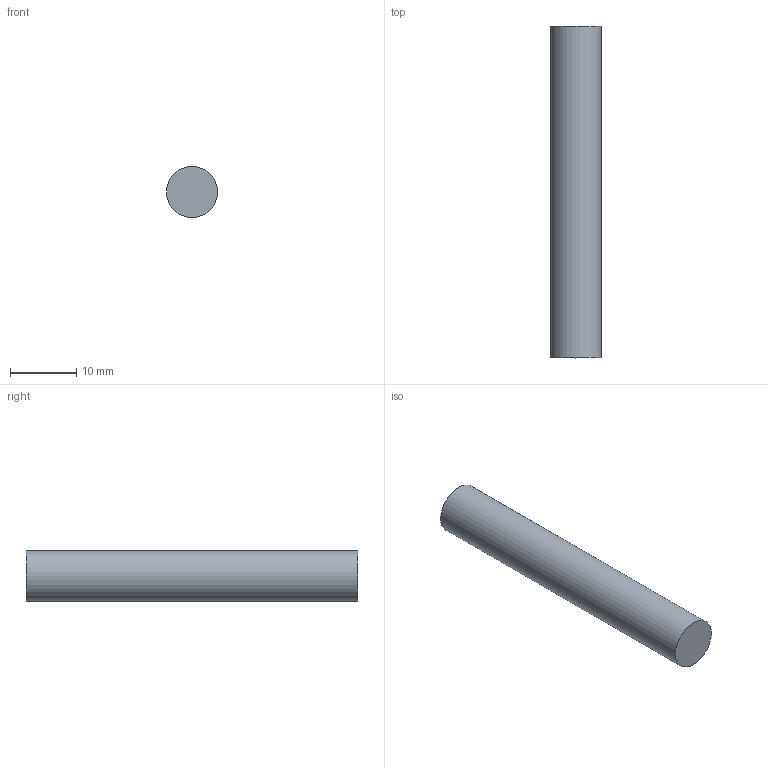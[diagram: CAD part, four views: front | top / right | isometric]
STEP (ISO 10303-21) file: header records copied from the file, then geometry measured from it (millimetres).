
FILE_DESCRIPTION(/* description */ (''),/* implementation_level */ '2;1');
FILE_NAME(/* name */ 'Pin.step',/* time_stamp */ '2026-09-01T18:32:12+04:00',/* author */ (''),/* organization */ (''),/* preprocessor_version */ 'ST-DEVELOPER v20.1',/* originating_system */ 'Autodesk Translation Framework v15.8.0.0',/* authorisation */ '');
FILE_SCHEMA (('AUTOMOTIVE_DESIGN { 1 0 10303 214 3 1 1 }'));
Length unit declared in the file: millimetre
Products named in the file (1): 2026-08-23-13-33-12-551
Bounding box: 7.68 x 50 x 7.68 mm (x, y, z)
Volume: 2316.2 mm3; surface area: 1299 mm2
Topology: 1 solids, 1 shells, 3 faces, 3 edges, 2 vertices
Faces by surface type: plane 2, cylinder 1
Full cylindrical faces by diameter (mm): 7.68 x1
Entity records: 99 total; most frequent: DIRECTION 13, CARTESIAN_POINT 9, ORIENTED_EDGE 6, AXIS2_PLACEMENT_3D 6, FACE_OUTER_BOUND 3, EDGE_LOOP 3, EDGE_CURVE 3, ADVANCED_FACE 3
